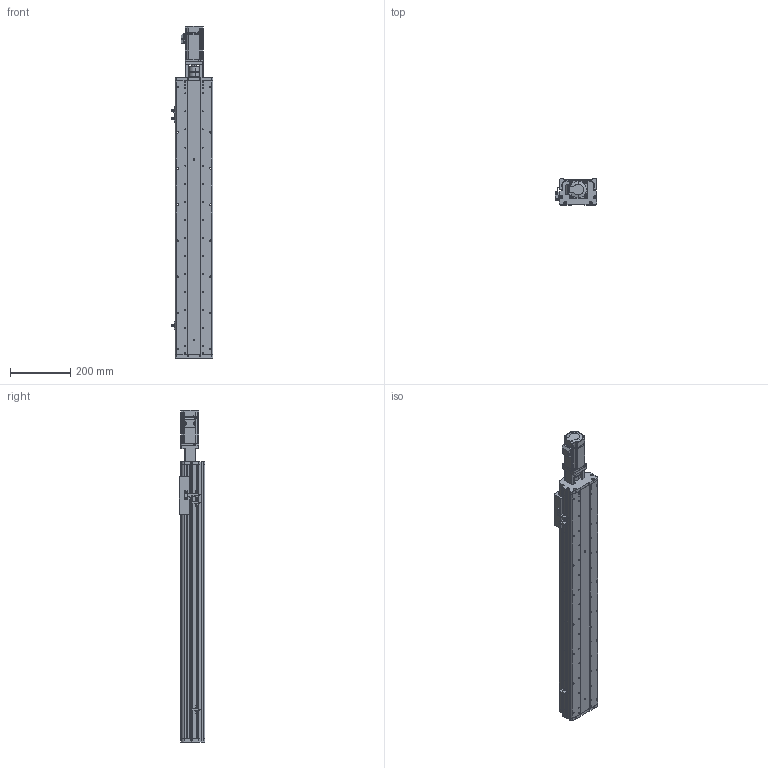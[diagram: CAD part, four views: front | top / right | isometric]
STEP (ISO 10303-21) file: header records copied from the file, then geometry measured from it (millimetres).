
FILE_DESCRIPTION (( 'STEP AP214' ), '1' );
FILE_NAME ('KSD125S-S700-MT-CM.STEP', '2017-08-07T06:45:54', ( '微软用户' ), ( '微软中国' ), 'SwSTEP 2.0', 'SolidWorks 2014', '' );
FILE_SCHEMA (( 'AUTOMOTIVE_DESIGN' ));
Length unit declared in the file: millimetre
Products named in the file (14): KSD125S-700俴最佪裝滅鳥裔; MHMD042G1CA_2_03; 100遵鎮湛假蚾啣1 ; 坶踡蹟譫 梓袧; 拸萇儂釱滅袉菜; KSD125S-700俴最佪裝菁啣; 覜茼え68遵圉猾敕; U倰嫖萇假蚾璃; U倰嫖萇EEㄜSX672; ヶ傷啣-125遵耀郪; KSD125-賑雄釱1; CS-34X32-10X14; 125-帣傷啣1; KSD125S-S700-MT-CM
Assembly tree (17 placements, depth 2):
  KSD125S-S700-MT-CM
    125-帣傷啣1
    CS-34X32-10X14
    KSD125-賑雄釱1
    ヶ傷啣-125遵耀郪
    U倰嫖萇EEㄜSX672  x3
    U倰嫖萇假蚾璃  x3
    覜茼え68遵圉猾敕
    拸萇儂釱滅袉菜
    坶踡蹟譫 梓袧
    100遵鎮湛假蚾啣1 
    MHMD042G1CA_2_03
    KSD125S-700俴最佪裝菁啣
    KSD125S-700俴最佪裝滅鳥裔
Bounding box: 138.7 x 86 x 1103.5 mm (x, y, z)
Volume: 3106023.9 mm3; surface area: 1027675.4 mm2
Topology: 16 solids, 19 shells, 1595 faces, 4576 edges, 3005 vertices
Faces by surface type: cylinder 810, plane 658, cone 105, bspline 22
Entity records: 56656 total; most frequent: CARTESIAN_POINT 11868, DIRECTION 8076, ORIENTED_EDGE 7660, EDGE_CURVE 3908, AXIS2_PLACEMENT_3D 2987, VERTEX_POINT 2597, LINE 2102, VECTOR 2102
